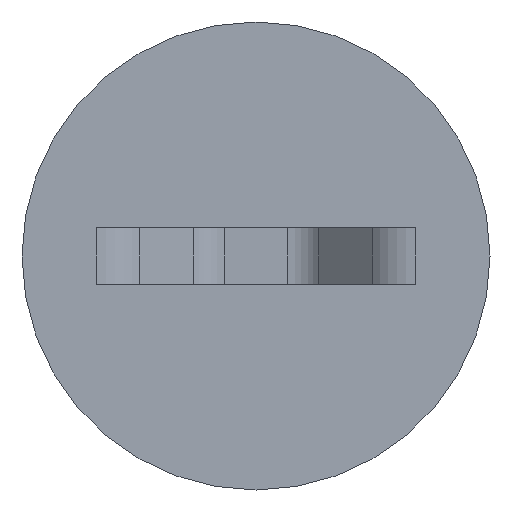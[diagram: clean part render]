
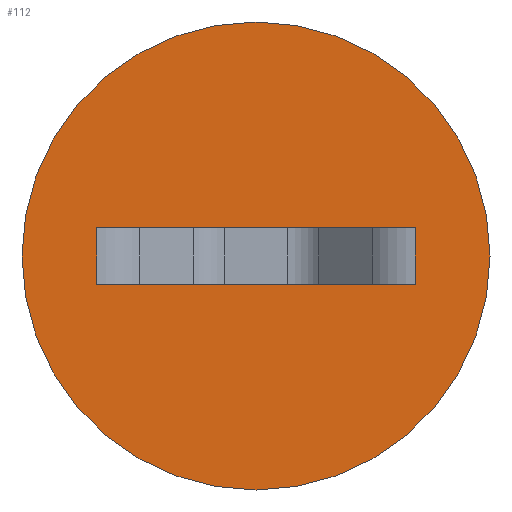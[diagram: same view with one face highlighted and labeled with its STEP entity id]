
A CAD part, front view. The second image highlights one B-rep face of the part: STEP entity #112.
In plain terms, the highlighted planar face has unit normal (0, -1, 0).
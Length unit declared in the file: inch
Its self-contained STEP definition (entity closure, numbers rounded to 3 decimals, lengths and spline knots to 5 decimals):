
#3 = DIRECTION ( 'NONE',  ( 0., 0., -1. ) ) ;
#58 = LINE ( 'NONE', #303, #159 ) ;
#108 = CARTESIAN_POINT ( 'NONE',  ( -0.03203, -0.074, -0.55 ) ) ;
#112 = ADVANCED_FACE ( 'NONE', ( #411, #346 ), #358, .F. ) ;
#119 = VERTEX_POINT ( 'NONE', #353 ) ;
#128 = CIRCLE ( 'NONE', #230, 0.625 ) ;
#159 = VECTOR ( 'NONE', #3, 39.37008 ) ;
#163 = DIRECTION ( 'NONE',  ( 0., -1., 0. ) ) ;
#164 = CARTESIAN_POINT ( 'NONE',  ( -0.03203, -0.074, 0.7 ) ) ;
#172 = AXIS2_PLACEMENT_3D ( 'NONE', #421, #669, #193 ) ;
#179 = CARTESIAN_POINT ( 'NONE',  ( -0.45735, -0.074, 0. ) ) ;
#182 = VERTEX_POINT ( 'NONE', #108 ) ;
#193 = DIRECTION ( 'NONE',  ( 0., 0., -1. ) ) ;
#195 = VERTEX_POINT ( 'NONE', #164 ) ;
#205 = EDGE_CURVE ( 'NONE', #195, #182, #567, .T. ) ;
#228 = DIRECTION ( 'NONE',  ( 0., 0., 1. ) ) ;
#230 = AXIS2_PLACEMENT_3D ( 'NONE', #417, #163, #286 ) ;
#244 = VERTEX_POINT ( 'NONE', #742 ) ;
#249 = EDGE_CURVE ( 'NONE', #431, #244, #58, .T. ) ;
#286 = DIRECTION ( 'NONE',  ( 0., 0., -1. ) ) ;
#303 = CARTESIAN_POINT ( 'NONE',  ( 0.3933, -0.074, 0.15 ) ) ;
#328 = LINE ( 'NONE', #637, #463 ) ;
#346 = FACE_BOUND ( 'NONE', #529, .T. ) ;
#353 = CARTESIAN_POINT ( 'NONE',  ( -0.45735, -0.074, 0.15 ) ) ;
#358 = PLANE ( 'NONE',  #712 ) ;
#360 = CARTESIAN_POINT ( 'NONE',  ( -0.45735, -0.074, 0.15 ) ) ;
#363 = ORIENTED_EDGE ( 'NONE', *, *, #605, .T. ) ;
#378 = ORIENTED_EDGE ( 'NONE', *, *, #205, .T. ) ;
#411 = FACE_OUTER_BOUND ( 'NONE', #610, .T. ) ;
#417 = CARTESIAN_POINT ( 'NONE',  ( -0.03203, -0.074, 0.075 ) ) ;
#421 = CARTESIAN_POINT ( 'NONE',  ( -0.03203, -0.074, 0.075 ) ) ;
#431 = VERTEX_POINT ( 'NONE', #455 ) ;
#447 = ORIENTED_EDGE ( 'NONE', *, *, #472, .F. ) ;
#455 = CARTESIAN_POINT ( 'NONE',  ( 0.3933, -0.074, 0.15 ) ) ;
#463 = VECTOR ( 'NONE', #511, 39.37008 ) ;
#466 = DIRECTION ( 'NONE',  ( -1., 0., 0. ) ) ;
#469 = LINE ( 'NONE', #791, #702 ) ;
#472 = EDGE_CURVE ( 'NONE', #734, #244, #328, .T. ) ;
#482 = VECTOR ( 'NONE', #741, 39.37008 ) ;
#511 = DIRECTION ( 'NONE',  ( 1., 0., 0. ) ) ;
#529 = EDGE_LOOP ( 'NONE', ( #796, #729, #447, #551 ) ) ;
#551 = ORIENTED_EDGE ( 'NONE', *, *, #681, .F. ) ;
#567 = CIRCLE ( 'NONE', #172, 0.625 ) ;
#573 = EDGE_CURVE ( 'NONE', #431, #119, #469, .T. ) ;
#605 = EDGE_CURVE ( 'NONE', #182, #195, #128, .T. ) ;
#610 = EDGE_LOOP ( 'NONE', ( #363, #378 ) ) ;
#637 = CARTESIAN_POINT ( 'NONE',  ( -0.45735, -0.074, 0. ) ) ;
#658 = DIRECTION ( 'NONE',  ( 0., 1., 0. ) ) ;
#667 = CARTESIAN_POINT ( 'NONE',  ( 0.3933, -0.074, 0.15 ) ) ;
#669 = DIRECTION ( 'NONE',  ( 0., -1., 0. ) ) ;
#672 = LINE ( 'NONE', #360, #482 ) ;
#681 = EDGE_CURVE ( 'NONE', #119, #734, #672, .T. ) ;
#702 = VECTOR ( 'NONE', #466, 39.37008 ) ;
#712 = AXIS2_PLACEMENT_3D ( 'NONE', #667, #658, #228 ) ;
#729 = ORIENTED_EDGE ( 'NONE', *, *, #249, .T. ) ;
#734 = VERTEX_POINT ( 'NONE', #179 ) ;
#741 = DIRECTION ( 'NONE',  ( 0., 0., -1. ) ) ;
#742 = CARTESIAN_POINT ( 'NONE',  ( 0.3933, -0.074, 0. ) ) ;
#791 = CARTESIAN_POINT ( 'NONE',  ( -0.45735, -0.074, 0.15 ) ) ;
#796 = ORIENTED_EDGE ( 'NONE', *, *, #573, .F. ) ;
